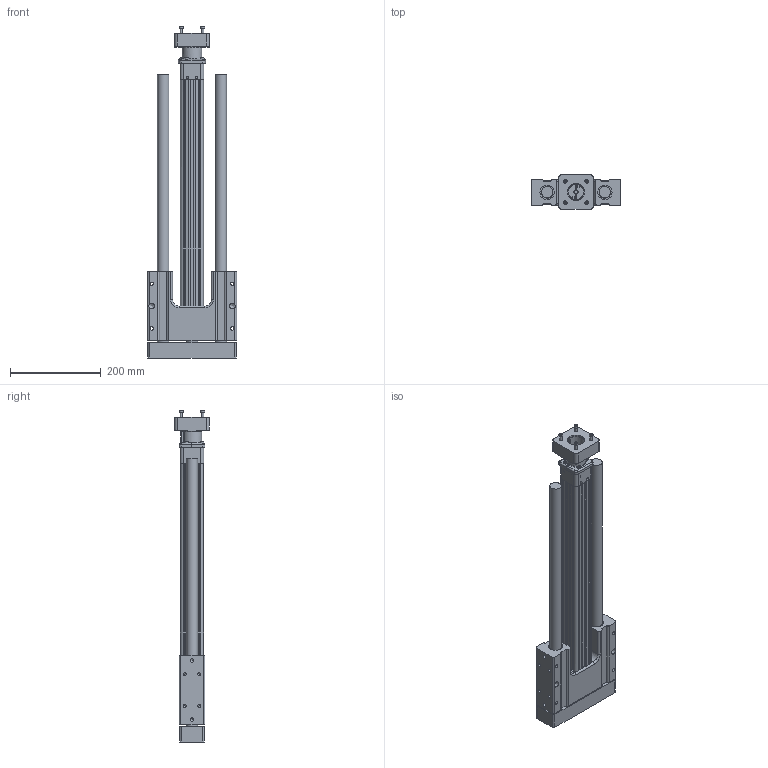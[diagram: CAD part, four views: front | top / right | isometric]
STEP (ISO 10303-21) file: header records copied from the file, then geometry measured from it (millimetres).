
FILE_DESCRIPTION (( 'STEP AP203' ), '1' );
FILE_NAME ('GSA24_BN02_SK16.000_GS-484966-1.step', '2025-03-28T21:24:53', ( '' ), ( '' ), 'SwSTEP 2.0', 'SolidWorks 2024', '' );
FILE_SCHEMA (( 'CONFIG_CONTROL_DESIGN' ));
Length unit declared in the file: inch
Products named in the file (7): temp0_22241015_GSA24_BN02_SK16.000_GS-484966-1; GSA24_BN02_SK16.000_GS-484966-1; temp1_22241015_GSA24_BN02_SK16.000_GS-484966-1; 22249807_GSA24_BN02_SK16.000_GS-484966-1; Base_GSA24_BN02_SK16.000_GS-484966-1; tempJoin0_45109053_GSA24_BN02_SK16.000_GS-484966-1; temp0_22241064_GSA24_BN02_SK16.000_GS-484966-1_DEFAULT WEB
Assembly tree (6 placements, depth 2):
  GSA24_BN02_SK16.000_GS-484966-1
    22249807_GSA24_BN02_SK16.000_GS-484966-1
    temp0_22241064_GSA24_BN02_SK16.000_GS-484966-1_DEFAULT WEB
    temp0_22241015_GSA24_BN02_SK16.000_GS-484966-1
    temp1_22241015_GSA24_BN02_SK16.000_GS-484966-1
    tempJoin0_45109053_GSA24_BN02_SK16.000_GS-484966-1
    Base_GSA24_BN02_SK16.000_GS-484966-1
Bounding box: 196.85 x 76.15 x 731.57 mm (x, y, z)
Volume: 3414981.7 mm3; surface area: 619680.1 mm2
Topology: 10 solids, 25 shells, 869 faces, 2048 edges, 1312 vertices
Faces by surface type: plane 478, cylinder 268, cone 65, bspline 30, torus 28
Full cylindrical faces by diameter (mm): 1.981 x2, 2.5 x1, 2.921 x4, 3.3 x8, 3.969 x2, 3.988 x2, 4 x13, 4.201 x4, 4.572 x1, 4.623 x4, 4.826 x4, 5 x4, 5.001 x4, 5.105 x2, 6.35 x2, 6.528 x4, 6.756 x4, 7 x9, 7.62 x4, 7.874 x4, 7.937 x5, 7.938 x2, 7.95 x2, 8.001 x1, 8.5 x8, 9.525 x3, 9.652 x4, 10 x1, 10.008 x1, 11.176 x4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
Entity records: 25669 total; most frequent: CARTESIAN_POINT 6062, DIRECTION 3996, ORIENTED_EDGE 3520, EDGE_CURVE 1760, AXIS2_PLACEMENT_3D 1515, VERTEX_POINT 1239, EDGE_LOOP 1209, FACE_OUTER_BOUND 1016
